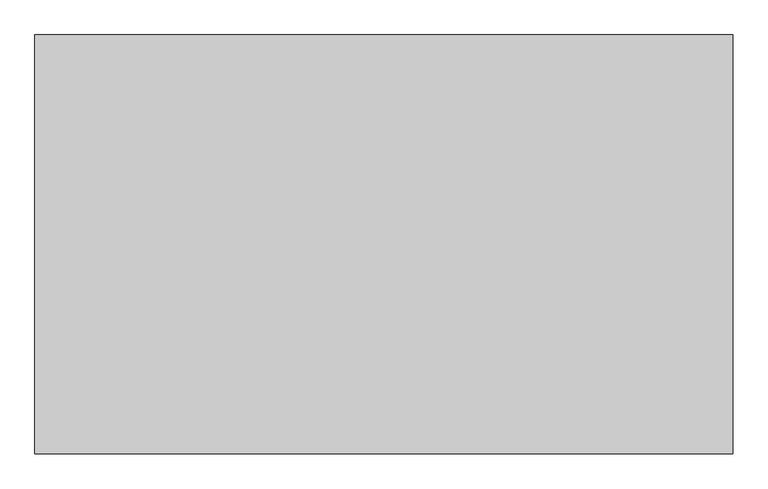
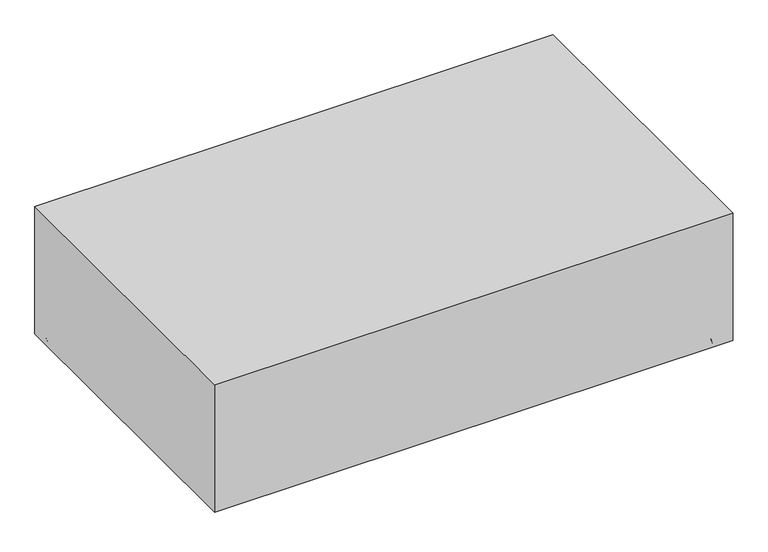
"""IFC4 building model written with IfcOpenShell, lengths in millimetres: furniture geometry, Audo Copenhagen - Plinth - Low : Audo Copenhagen - Plinth - Low."""

from ifc_helpers import new_model, si_unit, frame, origin, place, context, project, spatial, polyline, circle_curve, outline, extrude, source, transform, mapped, element, save
from ifc_brep_helpers import plane_surface, revolved_surface, advanced_brep


def furniture_d3fda9a2(model_context):
    return source(origin(), model_context, "Body", "SolidModel", [
        advanced_brep(
        [(-486.9987015, -279.9587848, 0.0), (-472.9987015, -279.9587848, 0.0), (-489.9987015, -279.9587848, 9.9), (-469.9987015, -279.9587848, 9.9)],
        [
            (0, 1, circle_curve(frame((-479.9987015, -279.9587848, 0.0), z_axis=(0.0, 0.0, -1.0), x_axis=(-1.0, 0.0, 0.0)), 7.0)),
            (1, 0, circle_curve(frame((-479.9987015, -279.9587848, 0.0), z_axis=(0.0, 0.0, -1.0), x_axis=(1.0, 0.0, 0.0)), 7.0)),
            (2, 3, circle_curve(frame((-479.9987015, -279.9587848, 9.9), z_axis=(0.0, 0.0, 1.0), x_axis=(1.0, 0.0, 0.0)), 10.0)),
            (3, 2, circle_curve(frame((-479.9987015, -279.9587848, 9.9), z_axis=(0.0, 0.0, 1.0), x_axis=(-1.0, 0.0, 0.0)), 10.0)),
            (3, 1),
            (0, 2),
        ],
        [
            plane_surface(frame((-479.9987015, -279.9587848, 0.0), z_axis=(0.0, 0.0, -1.0), x_axis=(0.0, -1.0, 0.0))),
            plane_surface(frame((-479.9987015, -279.9587848, 9.9), z_axis=(0.0, 0.0, 1.0), x_axis=(0.0, -1.0, 0.0))),
            revolved_surface(polyline([(-486.9987015, -279.9587848, 0.0), (-489.9987015, -279.9587848, 9.899999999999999)]), (-479.9987015, -279.9587848, -23.1), (0.0, 0.0, 1.0)),
            revolved_surface(polyline([(-472.9987015, -279.9587848, 0.0), (-469.9987015, -279.9587848, 9.899999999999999)]), (-479.9987015, -279.9587848, -23.1), (0.0, 0.0, 1.0)),
        ],
        [
            (0, [[1, 2]]),
            (1, [[3, 4]]),
            (2, [[-4, 5, -1, 6]]),
            (3, [[-3, -6, -2, -5]]),
        ],
    ),
        advanced_brep(
        [(486.9987015, -279.9587848, 0.0), (472.9987015, -279.9587848, 0.0), (489.9987015, -279.9587848, 9.9), (469.9987015, -279.9587848, 9.9)],
        [
            (0, 1, circle_curve(frame((479.9987015, -279.9587848, 0.0), z_axis=(0.0, 0.0, -1.0), x_axis=(1.0, 0.0, 0.0)), 7.0)),
            (1, 0, circle_curve(frame((479.9987015, -279.9587848, 0.0), z_axis=(0.0, 0.0, -1.0), x_axis=(-1.0, 0.0, 0.0)), 7.0)),
            (2, 3, circle_curve(frame((479.9987015, -279.9587848, 9.9), z_axis=(0.0, 0.0, 1.0), x_axis=(-1.0, 0.0, 0.0)), 10.0)),
            (3, 2, circle_curve(frame((479.9987015, -279.9587848, 9.9), z_axis=(0.0, 0.0, 1.0), x_axis=(1.0, 0.0, 0.0)), 10.0)),
            (2, 0),
            (1, 3),
        ],
        [
            plane_surface(frame((479.9987015, -279.9587848, 0.0), z_axis=(0.0, 0.0, -1.0), x_axis=(0.0, 1.0, 0.0))),
            plane_surface(frame((479.9987015, -279.9587848, 9.9), z_axis=(0.0, 0.0, 1.0), x_axis=(0.0, 1.0, 0.0))),
            revolved_surface(polyline([(472.9987015, -279.9587848, 0.0), (469.9987015, -279.9587848, 9.899999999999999)]), (479.9987015, -279.9587848, -23.1), (0.0, 0.0, 1.0)),
            revolved_surface(polyline([(486.9987015, -279.9587848, 0.0), (489.9987015, -279.9587848, 9.899999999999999)]), (479.9987015, -279.9587848, -23.1), (0.0, 0.0, 1.0)),
        ],
        [
            (0, [[1, 2]]),
            (1, [[3, 4]]),
            (2, [[-3, 5, -2, 6]]),
            (3, [[-4, -6, -1, -5]]),
        ],
    ),
        advanced_brep(
        [(486.9987015, 279.9587848, 0.0), (472.9987015, 279.9587848, 0.0), (489.9987015, 279.9587848, 9.9), (469.9987015, 279.9587848, 9.9)],
        [
            (0, 1, circle_curve(frame((479.9987015, 279.9587848, 0.0), z_axis=(0.0, 0.0, -1.0), x_axis=(1.0, 0.0, 0.0)), 7.0)),
            (1, 0, circle_curve(frame((479.9987015, 279.9587848, 0.0), z_axis=(0.0, 0.0, -1.0), x_axis=(-1.0, 0.0, 0.0)), 7.0)),
            (2, 3, circle_curve(frame((479.9987015, 279.9587848, 9.9), z_axis=(0.0, 0.0, 1.0), x_axis=(-1.0, 0.0, 0.0)), 10.0)),
            (3, 2, circle_curve(frame((479.9987015, 279.9587848, 9.9), z_axis=(0.0, 0.0, 1.0), x_axis=(1.0, 0.0, 0.0)), 10.0)),
            (3, 1),
            (0, 2),
        ],
        [
            plane_surface(frame((479.9987015, 279.9587848, 0.0), z_axis=(0.0, 0.0, -1.0), x_axis=(0.0, 1.0, 0.0))),
            plane_surface(frame((479.9987015, 279.9587848, 9.9), z_axis=(0.0, 0.0, 1.0), x_axis=(0.0, 1.0, 0.0))),
            revolved_surface(polyline([(486.9987015, 279.9587848, 0.0), (489.9987015, 279.9587848, 9.899999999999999)]), (479.9987015, 279.9587848, -23.1), (0.0, 0.0, 1.0)),
            revolved_surface(polyline([(472.9987015, 279.9587848, 0.0), (469.9987015, 279.9587848, 9.899999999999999)]), (479.9987015, 279.9587848, -23.1), (0.0, 0.0, 1.0)),
        ],
        [
            (0, [[1, 2]]),
            (1, [[3, 4]]),
            (2, [[-4, 5, -1, 6]]),
            (3, [[-3, -6, -2, -5]]),
        ],
    ),
        advanced_brep(
        [(-486.9987015, 279.9587848, 0.0), (-472.9987015, 279.9587848, 0.0), (-489.9987015, 279.9587848, 9.9), (-469.9987015, 279.9587848, 9.9)],
        [
            (0, 1, circle_curve(frame((-479.9987015, 279.9587848, 0.0), z_axis=(0.0, 0.0, -1.0), x_axis=(-1.0, 0.0, 0.0)), 7.0)),
            (1, 0, circle_curve(frame((-479.9987015, 279.9587848, 0.0), z_axis=(0.0, 0.0, -1.0), x_axis=(1.0, 0.0, 0.0)), 7.0)),
            (2, 3, circle_curve(frame((-479.9987015, 279.9587848, 9.9), z_axis=(0.0, 0.0, 1.0), x_axis=(1.0, 0.0, 0.0)), 10.0)),
            (3, 2, circle_curve(frame((-479.9987015, 279.9587848, 9.9), z_axis=(0.0, 0.0, 1.0), x_axis=(-1.0, 0.0, 0.0)), 10.0)),
            (2, 0),
            (1, 3),
        ],
        [
            plane_surface(frame((-479.9987015, 279.9587848, 0.0), z_axis=(0.0, 0.0, -1.0), x_axis=(0.0, -1.0, 0.0))),
            plane_surface(frame((-479.9987015, 279.9587848, 9.9), z_axis=(0.0, 0.0, 1.0), x_axis=(0.0, -1.0, 0.0))),
            revolved_surface(polyline([(-472.9987015, 279.9587848, 0.0), (-469.9987015, 279.9587848, 9.899999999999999)]), (-479.9987015, 279.9587848, -23.1), (0.0, 0.0, 1.0)),
            revolved_surface(polyline([(-486.9987015, 279.9587848, 0.0), (-489.9987015, 279.9587848, 9.899999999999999)]), (-479.9987015, 279.9587848, -23.1), (0.0, 0.0, 1.0)),
        ],
        [
            (0, [[1, 2]]),
            (1, [[3, 4]]),
            (2, [[-3, 5, -2, 6]]),
            (3, [[-4, -6, -1, -5]]),
        ],
    ),
        extrude(outline(polyline([(-500.0, -300.0), (-500.0, 300.0), (500.0, 300.0), (500.0, -300.0), (-500.0, -300.0)])), frame((0.0, 0.0, 9.9), z_axis=(0.0, 0.0, 1.0), x_axis=(1.0, 0.0, 0.0)), (0.0, 0.0, 1.0), 260.0),
    ])


if __name__ == "__main__":
    model = new_model("IFC4")
    model_context = context("Model", 3, world=origin())
    ifc_project = project(units=[si_unit("LENGTHUNIT", "METRE", prefix="MILLI")], contexts=[model_context])
    site = spatial("IfcSite", under=ifc_project)
    building = spatial("IfcBuilding", under=site)
    placement = place(None, origin())
    furniture_shape = furniture_d3fda9a2(model_context)
    element("IfcFurniture", 1, ObjectType="Audo Copenhagen - Plinth - Low : Audo Copenhagen - Plinth - Low", at=placement, inside=building, context=model_context, shape_type="MappedRepresentation", body=[
        mapped(furniture_shape, transform((0.0, 0.0, 0.0), x_axis=(1.0, 0.0, 0.0), y_axis=(0.0, 1.0, 0.0), z_axis=(0.0, 0.0, 1.0))),
    ])
    save(model, "model.ifc")
